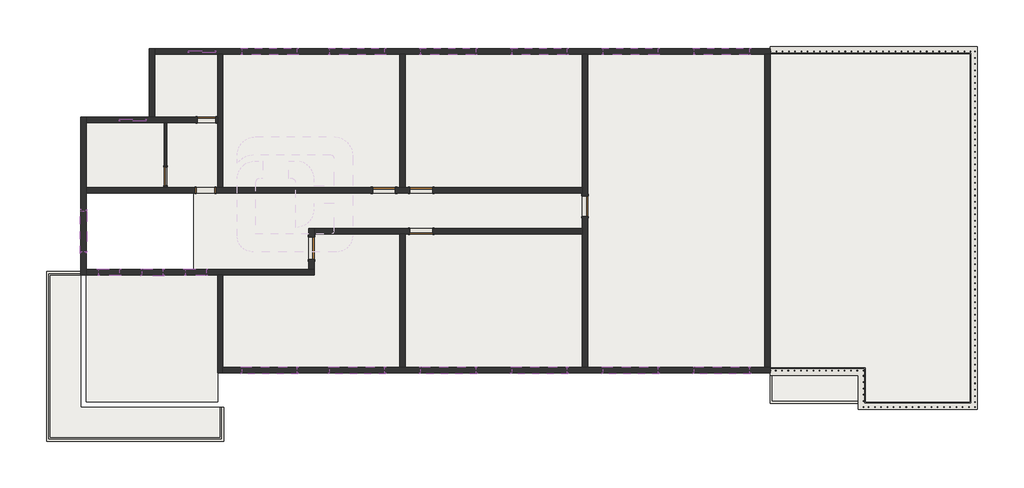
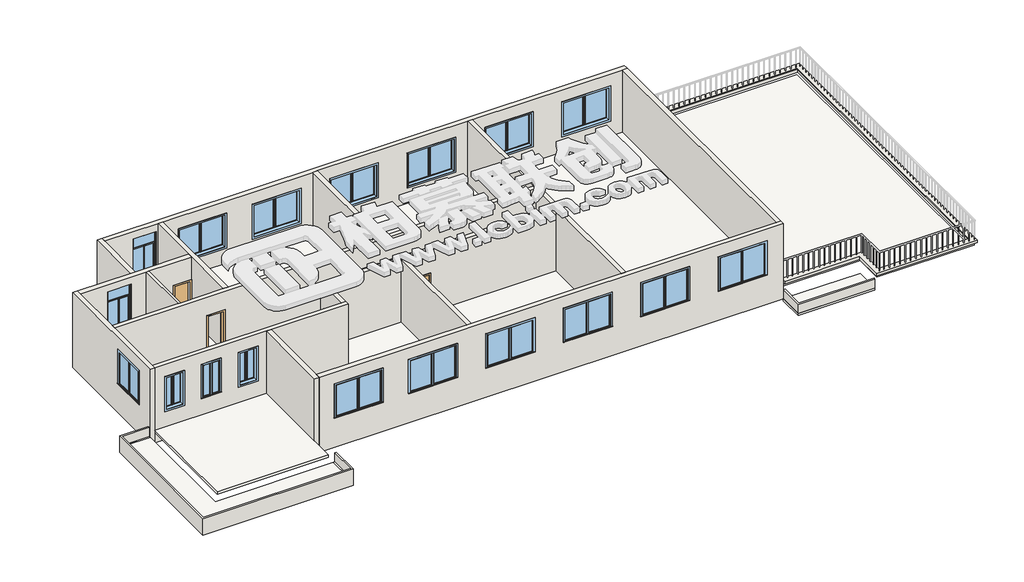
# One storey, part 1 of 2: 19 walls, 18 windows, 8 doors, 5 slabs.
"""IFC4 building model written with IfcOpenShell, lengths in millimetres."""

from ifc_helpers import new_model, si_unit, frame, origin, place, context, project, spatial, polyline, outline, extrude, faceted_brep, transform, mapped, element, save
from components import m_6_198a37c4, m_7_1c2f6ab2, m_7_583f3ef9, m_8_e44f04d8, m_8_28e287ba, md0924_8bf075f8, wall_187dfb07, wall_e267aab7, wall_ebd0b002, c_2_2cdffc81, c_2_be8dc616, c_3_661ab909, c_4_3f02acb8, c_5_474962f9

model = new_model("IFC4")

# Units and contexts
model_context = context("Model", 3, world=origin())
ifc_project = project(units=[si_unit("LENGTHUNIT", "METRE", prefix="MILLI")], contexts=[model_context])

# Site, building, storey
site = spatial("IfcSite", under=ifc_project)
building = spatial("IfcBuilding", under=site)
storey = spatial("IfcBuildingStorey", under=building, Name="标高 2", Elevation=3300.0)

# Doors
placement = place(None, origin())
m_6_shape = m_6_198a37c4(model_context)
element("IfcDoor", 1, ObjectType="单扇 - 与墙齐 : M-6", at=placement, inside=storey, context=model_context, shape_type="MappedRepresentation", body=[
    mapped(m_6_shape, transform((18445.1052473, -1418.768361, 4000.0), x_axis=(0.0, 1.0, 0.0), y_axis=(-1.0, 0.0, 0.0), z_axis=(0.0, 0.0, 1.0))),
])
m_7_shape = m_7_1c2f6ab2(model_context)
element("IfcDoor", 2, ObjectType="单扇 - 与墙齐 : M-7", at=placement, inside=storey, context=model_context, shape_type="MappedRepresentation", body=[
    mapped(m_7_shape, transform((45.1052473, -108.768361, 4000.0), x_axis=(0.0, -1.0, 0.0), y_axis=(1.0, 0.0, 0.0), z_axis=(0.0, 0.0, 1.0))),
])
m_7_2_shape = m_7_583f3ef9(model_context)
element("IfcDoor", 3, ObjectType="单扇 - 与墙齐 : M-7", at=placement, inside=storey, context=model_context, shape_type="MappedRepresentation", body=[
    mapped(m_7_2_shape, transform((1845.1052473, 2371.231639, 4000.0), x_axis=(1.0, 0.0, 0.0), y_axis=(0.0, 1.0, 0.0), z_axis=(0.0, 0.0, 1.0))),
])
m_8_shape = m_8_e44f04d8(model_context)
element("IfcDoor", 4, ObjectType="单扇 - 与墙齐 : M-8", at=placement, inside=storey, context=model_context, shape_type="MappedRepresentation", body=[
    mapped(m_8_shape, transform((6445.1052473, -3268.768361, 4000.0), x_axis=(0.0, 1.0, 0.0), y_axis=(-1.0, 0.0, 0.0), z_axis=(0.0, 0.0, 1.0))),
])
element("IfcDoor", 5, ObjectType="单扇 - 与墙齐 : M-8", at=placement, inside=storey, context=model_context, shape_type="MappedRepresentation", body=[
    mapped(m_8_shape, transform((11265.1052473, -728.768361, 4000.0), x_axis=(-1.0, 0.0, 0.0), y_axis=(0.0, -1.0, 0.0), z_axis=(0.0, 0.0, 1.0))),
])
m_8_2_shape = m_8_28e287ba(model_context)
element("IfcDoor", 6, ObjectType="单扇 - 与墙齐 : M-8", at=placement, inside=storey, context=model_context, shape_type="MappedRepresentation", body=[
    mapped(m_8_2_shape, transform((9625.1052473, -728.768361, 4000.0), x_axis=(1.0, 0.0, 0.0), y_axis=(0.0, 1.0, 0.0), z_axis=(0.0, 0.0, 1.0))),
])
element("IfcDoor", 7, ObjectType="单扇 - 与墙齐 : M-8", at=placement, inside=storey, context=model_context, shape_type="MappedRepresentation", body=[
    mapped(m_8_2_shape, transform((11265.1052473, -2528.768361, 4000.0), x_axis=(-1.0, 0.0, 0.0), y_axis=(0.0, -1.0, 0.0), z_axis=(0.0, 0.0, 1.0))),
])
md0924_shape = md0924_8bf075f8(model_context)
element("IfcDoor", 8, ObjectType="门洞 : MD0924", at=placement, inside=storey, context=model_context, shape_type="MappedRepresentation", body=[
    mapped(md0924_shape, transform((1795.1052473, -728.768361, 4000.0), x_axis=(1.0, 0.0, 0.0), y_axis=(0.0, 1.0, 0.0), z_axis=(0.0, 0.0, 1.0))),
])

# Slabs
element("IfcSlab", 9, ObjectType="楼板-120mm", at=placement, inside=storey, context=model_context, shape_type="SweptSolid", body=[
    extrude(outline(polyline([(2565.1052473, -8508.768361), (2565.1052473, -4208.768361), (1285.1052473, -4208.768361), (1285.1052473, -849.168361), (-3434.8947527, -849.168361), (-3434.8947527, 2251.231639), (-434.8947527, 2251.231639), (-434.8947527, 5251.231639), (26325.1052473, 5251.231639), (26325.1052473, -8508.768361), (2565.1052473, -8508.768361)])), frame((0.0, 0.0, 3880.0), z_axis=(0.0, 0.0, 1.0), x_axis=(1.0, 0.0, 0.0)), (0.0, 0.0, 1.0), 120.0),
])
element("IfcSlab", 10, ObjectType="楼板-120mm", at=placement, inside=storey, context=model_context, shape_type="SweptSolid", body=[
    extrude(outline(polyline([(2325.1052473, -4448.768361), (2325.1052473, -10008.768361), (-3434.8947527, -10008.768361), (-3434.8947527, -4448.768361), (2325.1052473, -4448.768361)])), frame((0.0, 0.0, 3880.0), z_axis=(0.0, 0.0, 1.0), x_axis=(1.0, 0.0, 0.0)), (0.0, 0.0, 1.0), 120.0),
])
element("IfcSlab", 11, ObjectType="楼板-120mm", at=placement, inside=storey, context=model_context, shape_type="SweptSolid", body=[
    extrude(outline(polyline([(35325.1052473, 5251.231639), (35325.1052473, -10008.768361), (30765.1052473, -10008.768361), (30765.1052473, -8508.768361), (26565.1052473, -8508.768361), (26565.1052473, 5251.231639), (35325.1052473, 5251.231639)])), frame((0.0, 0.0, 3880.0), z_axis=(0.0, 0.0, 1.0), x_axis=(1.0, 0.0, 0.0)), (0.0, 0.0, 1.0), 120.0),
])
element("IfcSlab", 12, ObjectType="楼板-120mm", at=placement, inside=storey, context=model_context, shape_type="SweptSolid", body=[
    extrude(outline(polyline([(30525.1052473, -8748.768361), (30525.1052473, -10078.768361), (26565.1052473, -10078.768361), (26565.1052473, -8748.768361), (30525.1052473, -8748.768361)])), frame((0.0, 0.0, 3180.0), z_axis=(0.0, 0.0, 1.0), x_axis=(1.0, 0.0, 0.0)), (0.0, 0.0, 1.0), 120.0),
])
element("IfcSlab", 13, ObjectType="100", at=placement, inside=storey, context=model_context, shape_type="SweptSolid", body=[
    extrude(outline(polyline([(-3674.8947527, -10248.768361), (2445.1052473, -10248.768361), (2445.1052473, -11598.768361), (-5024.8947527, -11598.768361), (-5024.8947527, -4448.768361), (-3674.8947527, -4448.768361), (-3674.8947527, -10248.768361)])), frame((0.0, 0.0, 3600.0), z_axis=(0.0, 0.0, 1.0), x_axis=(1.0, 0.0, 0.0)), (0.0, 0.0, 1.0), 100.0),
])

# Walls
element("IfcWall", 14, ObjectType="240mm墙", at=placement, inside=storey, context=model_context, shape_type="Brep", body=[
    faceted_brep([(-3434.8947527, 2251.231639, 3300.0), (-14.8947527, 2251.231639, 3300.0), (105.1052473, 2251.231639, 3300.0), (2325.1052473, 2251.231639, 3300.0), (2325.1052473, 2251.231639, 7400.0), (105.1052473, 2251.231639, 7400.0), (-14.8947527, 2251.231639, 7400.0), (-3434.8947527, 2251.231639, 7400.0), (1445.1052473, 2251.231639, 4000.0), (1445.1052473, 2251.231639, 6100.0), (2245.1052473, 2251.231639, 6100.0), (2245.1052473, 2251.231639, 4000.0), (-794.8947527, 2251.231639, 4900.0), (-1994.8947527, 2251.231639, 4900.0), (-1994.8947527, 2251.231639, 7000.0), (-794.8947527, 2251.231639, 7000.0), (-3434.8947527, 2491.231639, 3300.0), (-3434.8947527, 2491.231639, 7400.0), (-674.8947527, 2491.231639, 7400.0), (-434.8947527, 2491.231639, 7400.0), (2325.1052473, 2491.231639, 7400.0), (2325.1052473, 2491.231639, 3300.0), (-434.8947527, 2491.231639, 3300.0), (-674.8947527, 2491.231639, 3300.0), (1445.1052473, 2491.231639, 4000.0), (2245.1052473, 2491.231639, 4000.0), (2245.1052473, 2491.231639, 6100.0), (1445.1052473, 2491.231639, 6100.0), (-794.8947527, 2491.231639, 4900.0), (-794.8947527, 2491.231639, 7000.0), (-1994.8947527, 2491.231639, 7000.0), (-1994.8947527, 2491.231639, 4900.0)], [[[0, 1, 2, 3, 4, 5, 6, 7], [8, 9, 10, 11], [12, 13, 14, 15]], [[16, 17, 18, 19, 20, 21, 22, 23], [24, 25, 26, 27], [28, 29, 30, 31]], [[3, 2, 1, 0, 16, 23, 22, 21]], [[7, 6, 5, 4, 20, 19, 18, 17]], [[0, 7, 17, 16]], [[4, 3, 21, 20]], [[25, 24, 8, 11]], [[26, 25, 11, 10]], [[27, 26, 10, 9]], [[24, 27, 9, 8]], [[29, 28, 12, 15]], [[30, 29, 15, 14]], [[31, 30, 14, 13]], [[28, 31, 13, 12]]]),
])
element("IfcWall", 15, ObjectType="240mm墙", at=placement, inside=storey, context=model_context, shape_type="Brep", body=[
    faceted_brep([(-434.8947527, 2491.231639, 3300.0), (-434.8947527, 5251.231639, 3300.0), (-434.8947527, 5491.231639, 3300.0), (-434.8947527, 5491.231639, 7400.0), (-434.8947527, 5251.231639, 7400.0), (-434.8947527, 2491.231639, 7400.0), (-674.8947527, 2491.231639, 3300.0), (-674.8947527, 2491.231639, 7400.0), (-674.8947527, 5491.231639, 7400.0), (-674.8947527, 5491.231639, 3300.0)], [[[0, 1, 2, 3, 4, 5]], [[6, 7, 8, 9]], [[2, 1, 0, 6, 9]], [[5, 4, 3, 8, 7]], [[0, 5, 7, 6]], [[3, 2, 9, 8]]]),
])
element("IfcWall", 16, ObjectType="240mm墙", at=placement, inside=storey, context=model_context, shape_type="Brep", body=[
    faceted_brep([(-434.8947527, 5251.231639, 3300.0), (2325.1052473, 5251.231639, 3300.0), (2565.1052473, 5251.231639, 3300.0), (10325.1052473, 5251.231639, 3300.0), (10565.1052473, 5251.231639, 3300.0), (18325.1052473, 5251.231639, 3300.0), (18565.1052473, 5251.231639, 3300.0), (26325.1052473, 5251.231639, 3300.0), (26565.1052473, 5251.231639, 3300.0), (26565.1052473, 5251.231639, 4000.0), (26565.1052473, 5251.231639, 7400.0), (26325.1052473, 5251.231639, 7400.0), (18565.1052473, 5251.231639, 7400.0), (18325.1052473, 5251.231639, 7400.0), (10565.1052473, 5251.231639, 7400.0), (10325.1052473, 5251.231639, 7400.0), (2565.1052473, 5251.231639, 7400.0), (2325.1052473, 5251.231639, 7400.0), (-434.8947527, 5251.231639, 7400.0), (23245.1052473, 5251.231639, 6700.0), (25645.1052473, 5251.231639, 6700.0), (25645.1052473, 5251.231639, 4900.0), (23245.1052473, 5251.231639, 4900.0), (19245.1052473, 5251.231639, 6700.0), (21645.1052473, 5251.231639, 6700.0), (21645.1052473, 5251.231639, 4900.0), (19245.1052473, 5251.231639, 4900.0), (15245.1052473, 5251.231639, 6700.0), (17645.1052473, 5251.231639, 6700.0), (17645.1052473, 5251.231639, 4900.0), (15245.1052473, 5251.231639, 4900.0), (11245.1052473, 5251.231639, 6700.0), (13645.1052473, 5251.231639, 6700.0), (13645.1052473, 5251.231639, 4900.0), (11245.1052473, 5251.231639, 4900.0), (7245.1052473, 5251.231639, 6700.0), (9645.1052473, 5251.231639, 6700.0), (9645.1052473, 5251.231639, 4900.0), (7245.1052473, 5251.231639, 4900.0), (3405.1052473, 5251.231639, 6700.0), (5805.1052473, 5251.231639, 6700.0), (5805.1052473, 5251.231639, 4900.0), (3405.1052473, 5251.231639, 4900.0), (2245.1052473, 5251.231639, 4900.0), (1045.1052473, 5251.231639, 4900.0), (1045.1052473, 5251.231639, 7000.0), (2245.1052473, 5251.231639, 7000.0), (-434.8947527, 5491.231639, 3300.0), (-434.8947527, 5491.231639, 7400.0), (26565.1052473, 5491.231639, 7400.0), (26565.1052473, 5491.231639, 4000.0), (26565.1052473, 5491.231639, 3300.0), (23245.1052473, 5491.231639, 6700.0), (23245.1052473, 5491.231639, 4900.0), (25645.1052473, 5491.231639, 4900.0), (25645.1052473, 5491.231639, 6700.0), (19245.1052473, 5491.231639, 6700.0), (19245.1052473, 5491.231639, 4900.0), (21645.1052473, 5491.231639, 4900.0), (21645.1052473, 5491.231639, 6700.0), (15245.1052473, 5491.231639, 6700.0), (15245.1052473, 5491.231639, 4900.0), (17645.1052473, 5491.231639, 4900.0), (17645.1052473, 5491.231639, 6700.0), (11245.1052473, 5491.231639, 6700.0), (11245.1052473, 5491.231639, 4900.0), (13645.1052473, 5491.231639, 4900.0), (13645.1052473, 5491.231639, 6700.0), (7245.1052473, 5491.231639, 6700.0), (7245.1052473, 5491.231639, 4900.0), (9645.1052473, 5491.231639, 4900.0), (9645.1052473, 5491.231639, 6700.0), (3405.1052473, 5491.231639, 6700.0), (3405.1052473, 5491.231639, 4900.0), (5805.1052473, 5491.231639, 4900.0), (5805.1052473, 5491.231639, 6700.0), (2245.1052473, 5491.231639, 4900.0), (2245.1052473, 5491.231639, 7000.0), (1045.1052473, 5491.231639, 7000.0), (1045.1052473, 5491.231639, 4900.0)], [[[0, 1, 2, 3, 4, 5, 6, 7, 8, 9, 10, 11, 12, 13, 14, 15, 16, 17, 18], [19, 20, 21, 22], [23, 24, 25, 26], [27, 28, 29, 30], [31, 32, 33, 34], [35, 36, 37, 38], [39, 40, 41, 42], [43, 44, 45, 46]], [[47, 48, 49, 50, 51], [52, 53, 54, 55], [56, 57, 58, 59], [60, 61, 62, 63], [64, 65, 66, 67], [68, 69, 70, 71], [72, 73, 74, 75], [76, 77, 78, 79]], [[8, 7, 6, 5, 4, 3, 2, 1, 0, 47, 51]], [[18, 17, 16, 15, 14, 13, 12, 11, 10, 49, 48]], [[0, 18, 48, 47]], [[53, 52, 19, 22]], [[54, 53, 22, 21]], [[55, 54, 21, 20]], [[52, 55, 20, 19]], [[57, 56, 23, 26]], [[58, 57, 26, 25]], [[59, 58, 25, 24]], [[56, 59, 24, 23]], [[61, 60, 27, 30]], [[62, 61, 30, 29]], [[63, 62, 29, 28]], [[60, 63, 28, 27]], [[65, 64, 31, 34]], [[66, 65, 34, 33]], [[67, 66, 33, 32]], [[64, 67, 32, 31]], [[69, 68, 35, 38]], [[70, 69, 38, 37]], [[71, 70, 37, 36]], [[68, 71, 36, 35]], [[73, 72, 39, 42]], [[74, 73, 42, 41]], [[75, 74, 41, 40]], [[72, 75, 40, 39]], [[77, 76, 43, 46]], [[78, 77, 46, 45]], [[79, 78, 45, 44]], [[76, 79, 44, 43]], [[8, 51, 50, 49, 10, 9]]]),
])
element("IfcWall", 17, ObjectType="240mm墙", at=placement, inside=storey, context=model_context, shape_type="Brep", body=[
    faceted_brep([(2325.1052473, 5251.231639, 3300.0), (2325.1052473, 2491.231639, 3300.0), (2325.1052473, 2251.231639, 3300.0), (2325.1052473, -608.768361, 3300.0), (2325.1052473, -608.768361, 7400.0), (2325.1052473, 2251.231639, 7400.0), (2325.1052473, 2491.231639, 7400.0), (2325.1052473, 5251.231639, 7400.0), (2565.1052473, 5251.231639, 3300.0), (2565.1052473, 5251.231639, 7400.0), (2565.1052473, -608.768361, 7400.0), (2565.1052473, -608.768361, 3300.0)], [[[0, 1, 2, 3, 4, 5, 6, 7]], [[8, 9, 10, 11]], [[3, 2, 1, 0, 8, 11]], [[7, 6, 5, 4, 10, 9]], [[0, 7, 9, 8]], [[4, 3, 11, 10]]]),
])
element("IfcWall", 18, ObjectType="240mm墙", at=placement, inside=storey, context=model_context, shape_type="Brep", body=[
    faceted_brep([(6565.1052473, -4448.768361, 7400.0), (2565.1052473, -4448.768361, 7400.0), (2325.1052473, -4448.768361, 7400.0), (-3434.8947527, -4448.768361, 7400.0), (-3434.8947527, -4448.768361, 3300.0), (2325.1052473, -4448.768361, 3300.0), (2325.1052473, -4448.768361, 3880.0), (2565.1052473, -4448.768361, 3880.0), (2565.1052473, -4448.768361, 3300.0), (6565.1052473, -4448.768361, 3300.0), (-1974.8947527, -4448.768361, 6700.0), (-1974.8947527, -4448.768361, 4900.0), (-2874.8947527, -4448.768361, 4900.0), (-2874.8947527, -4448.768361, 6700.0), (-974.8947527, -4448.768361, 4900.0), (-974.8947527, -4448.768361, 6700.0), (-74.8947527, -4448.768361, 6700.0), (-74.8947527, -4448.768361, 4900.0), (1825.1052473, -4448.768361, 6700.0), (1825.1052473, -4448.768361, 4900.0), (925.1052473, -4448.768361, 4900.0), (925.1052473, -4448.768361, 6700.0), (-3434.8947527, -4208.768361, 7400.0), (6325.1052473, -4208.768361, 7400.0), (6565.1052473, -4208.768361, 7400.0), (6565.1052473, -4208.768361, 3300.0), (6325.1052473, -4208.768361, 3300.0), (2565.1052473, -4208.768361, 3300.0), (2565.1052473, -4208.768361, 3880.0), (2325.1052473, -4208.768361, 3880.0), (2325.1052473, -4208.768361, 3300.0), (-3434.8947527, -4208.768361, 3300.0), (-1974.8947527, -4208.768361, 4900.0), (-1974.8947527, -4208.768361, 6700.0), (-2874.8947527, -4208.768361, 6700.0), (-2874.8947527, -4208.768361, 4900.0), (-974.8947527, -4208.768361, 6700.0), (-974.8947527, -4208.768361, 4900.0), (-74.8947527, -4208.768361, 4900.0), (-74.8947527, -4208.768361, 6700.0), (1825.1052473, -4208.768361, 4900.0), (1825.1052473, -4208.768361, 6700.0), (925.1052473, -4208.768361, 6700.0), (925.1052473, -4208.768361, 4900.0)], [[[0, 1, 2, 3, 4, 5, 6, 7, 8, 9], [10, 11, 12, 13], [14, 15, 16, 17], [18, 19, 20, 21]], [[22, 23, 24, 25, 26, 27, 28, 29, 30, 31], [32, 33, 34, 35], [36, 37, 38, 39], [40, 41, 42, 43]], [[4, 31, 30, 5]], [[25, 9, 8, 27, 26]], [[3, 2, 1, 0, 24, 23, 22]], [[0, 9, 25, 24]], [[11, 10, 33, 32]], [[12, 11, 32, 35]], [[13, 12, 35, 34]], [[10, 13, 34, 33]], [[37, 36, 15, 14]], [[38, 37, 14, 17]], [[39, 38, 17, 16]], [[36, 39, 16, 15]], [[19, 18, 41, 40]], [[20, 19, 40, 43]], [[21, 20, 43, 42]], [[18, 21, 42, 41]], [[3, 22, 31, 4]], [[29, 6, 5, 30]], [[7, 28, 27, 8]], [[6, 29, 28, 7]]]),
])
element("IfcWall", 19, ObjectType="120mm墙", at=placement, inside=storey, context=model_context, shape_type="SweptSolid", body=[
    extrude(outline(polyline([(2251.231639, 3300.0), (-608.768361, 3300.0), (-608.768361, 7400.0), (2251.231639, 7400.0), (2251.231639, 3300.0)]), holes=[polyline([(291.231639, 4000.0), (291.231639, 6100.0), (-508.768361, 6100.0), (-508.768361, 4000.0), (291.231639, 4000.0)])]), frame((-14.8947527, 0.0, 0.0), z_axis=(1.0, 0.0, 0.0), x_axis=(0.0, 1.0, 0.0)), (0.0, 0.0, 1.0), 120.0),
])
element("IfcWall", 20, ObjectType="240mm墙", at=placement, inside=storey, context=model_context, shape_type="Brep", body=[
    faceted_brep([(26325.1052473, 5251.231639, 7400.0), (26325.1052473, 5251.231639, 3300.0), (26325.1052473, -5748.768361, 3300.0), (26325.1052473, -8508.768361, 3300.0), (26325.1052473, -8508.768361, 7400.0), (26565.1052473, 5251.231639, 3300.0), (26565.1052473, 5251.231639, 7400.0), (26565.1052473, -8508.768361, 7400.0), (26565.1052473, -8508.768361, 3300.0), (26565.1052473, -5748.768361, 3300.0)], [[[0, 1, 2, 3, 4]], [[5, 6, 7, 8, 9]], [[3, 2, 1, 5, 9, 8]], [[0, 4, 7, 6]], [[0, 6, 5, 1]], [[3, 8, 7, 4]]]),
])
element("IfcWall", 21, ObjectType="240mm墙", at=placement, inside=storey, context=model_context, shape_type="Brep", body=[
    faceted_brep([(-3434.8947527, -4448.768361, 7400.0), (-3434.8947527, -4448.768361, 4000.0), (-3434.8947527, -4448.768361, 3300.0), (-3434.8947527, -4328.768361, 3300.0), (-3434.8947527, -4208.768361, 3300.0), (-3434.8947527, -848.768361, 3300.0), (-3434.8947527, -608.768361, 3300.0), (-3434.8947527, 2251.231639, 3300.0), (-3434.8947527, 2491.231639, 3300.0), (-3434.8947527, 2491.231639, 7400.0), (-3434.8947527, 2251.231639, 7400.0), (-3434.8947527, -608.768361, 7400.0), (-3434.8947527, -848.768361, 7400.0), (-3434.8947527, -4208.768361, 7400.0), (-3434.8947527, -1628.768361, 6700.0), (-3434.8947527, -1628.768361, 4900.0), (-3434.8947527, -3428.768361, 4900.0), (-3434.8947527, -3428.768361, 6700.0), (-3674.8947527, -4448.768361, 3300.0), (-3674.8947527, -4448.768361, 4000.0), (-3674.8947527, -4448.768361, 7400.0), (-3674.8947527, 2491.231639, 7400.0), (-3674.8947527, 2491.231639, 3300.0), (-3674.8947527, -4328.768361, 3300.0), (-3674.8947527, -1628.768361, 6700.0), (-3674.8947527, -3428.768361, 6700.0), (-3674.8947527, -3428.768361, 4900.0), (-3674.8947527, -1628.768361, 4900.0)], [[[0, 1, 2, 3, 4, 5, 6, 7, 8, 9, 10, 11, 12, 13], [14, 15, 16, 17]], [[18, 19, 20, 21, 22, 23], [24, 25, 26, 27]], [[8, 7, 6, 5, 4, 3, 2, 18, 23, 22]], [[0, 13, 12, 11, 10, 9, 21, 20]], [[9, 8, 22, 21]], [[15, 14, 24, 27]], [[16, 15, 27, 26]], [[17, 16, 26, 25]], [[14, 17, 25, 24]], [[0, 20, 19, 18, 2, 1]]]),
])
element("IfcWall", 22, ObjectType="240mm墙", at=placement, inside=storey, context=model_context, shape_type="Brep", body=[
    faceted_brep([(26565.1052473, -8508.768361, 7400.0), (26565.1052473, -8508.768361, 4000.0), (26565.1052473, -8508.768361, 3300.0), (26445.1052473, -8508.768361, 3300.0), (26325.1052473, -8508.768361, 3300.0), (18565.1052473, -8508.768361, 3300.0), (18325.1052473, -8508.768361, 3300.0), (10565.1052473, -8508.768361, 3300.0), (10325.1052473, -8508.768361, 3300.0), (2565.1052473, -8508.768361, 3300.0), (2565.1052473, -8508.768361, 7400.0), (10325.1052473, -8508.768361, 7400.0), (10565.1052473, -8508.768361, 7400.0), (18325.1052473, -8508.768361, 7400.0), (18565.1052473, -8508.768361, 7400.0), (26325.1052473, -8508.768361, 7400.0), (3405.1052473, -8508.768361, 6700.0), (3405.1052473, -8508.768361, 4900.0), (5805.1052473, -8508.768361, 4900.0), (5805.1052473, -8508.768361, 6700.0), (7245.1052473, -8508.768361, 6700.0), (7245.1052473, -8508.768361, 4900.0), (9645.1052473, -8508.768361, 4900.0), (9645.1052473, -8508.768361, 6700.0), (11245.1052473, -8508.768361, 6700.0), (11245.1052473, -8508.768361, 4900.0), (13645.1052473, -8508.768361, 4900.0), (13645.1052473, -8508.768361, 6700.0), (15245.1052473, -8508.768361, 6700.0), (15245.1052473, -8508.768361, 4900.0), (17645.1052473, -8508.768361, 4900.0), (17645.1052473, -8508.768361, 6700.0), (19245.1052473, -8508.768361, 6700.0), (19245.1052473, -8508.768361, 4900.0), (21645.1052473, -8508.768361, 4900.0), (21645.1052473, -8508.768361, 6700.0), (23245.1052473, -8508.768361, 6700.0), (23245.1052473, -8508.768361, 4900.0), (25645.1052473, -8508.768361, 4900.0), (25645.1052473, -8508.768361, 6700.0), (26565.1052473, -8748.768361, 3300.0), (26565.1052473, -8748.768361, 4000.0), (26565.1052473, -8748.768361, 7400.0), (2565.1052473, -8748.768361, 7400.0), (2565.1052473, -8748.768361, 3300.0), (26445.1052473, -8748.768361, 3300.0), (3405.1052473, -8748.768361, 6700.0), (5805.1052473, -8748.768361, 6700.0), (5805.1052473, -8748.768361, 4900.0), (3405.1052473, -8748.768361, 4900.0), (7245.1052473, -8748.768361, 6700.0), (9645.1052473, -8748.768361, 6700.0), (9645.1052473, -8748.768361, 4900.0), (7245.1052473, -8748.768361, 4900.0), (11245.1052473, -8748.768361, 6700.0), (13645.1052473, -8748.768361, 6700.0), (13645.1052473, -8748.768361, 4900.0), (11245.1052473, -8748.768361, 4900.0), (15245.1052473, -8748.768361, 6700.0), (17645.1052473, -8748.768361, 6700.0), (17645.1052473, -8748.768361, 4900.0), (15245.1052473, -8748.768361, 4900.0), (19245.1052473, -8748.768361, 6700.0), (21645.1052473, -8748.768361, 6700.0), (21645.1052473, -8748.768361, 4900.0), (19245.1052473, -8748.768361, 4900.0), (23245.1052473, -8748.768361, 6700.0), (25645.1052473, -8748.768361, 6700.0), (25645.1052473, -8748.768361, 4900.0), (23245.1052473, -8748.768361, 4900.0)], [[[0, 1, 2, 3, 4, 5, 6, 7, 8, 9, 10, 11, 12, 13, 14, 15], [16, 17, 18, 19], [20, 21, 22, 23], [24, 25, 26, 27], [28, 29, 30, 31], [32, 33, 34, 35], [36, 37, 38, 39]], [[40, 41, 42, 43, 44, 45], [46, 47, 48, 49], [50, 51, 52, 53], [54, 55, 56, 57], [58, 59, 60, 61], [62, 63, 64, 65], [66, 67, 68, 69]], [[9, 8, 7, 6, 5, 4, 3, 2, 40, 45, 44]], [[0, 15, 14, 13, 12, 11, 10, 43, 42]], [[17, 16, 46, 49]], [[18, 17, 49, 48]], [[19, 18, 48, 47]], [[16, 19, 47, 46]], [[21, 20, 50, 53]], [[22, 21, 53, 52]], [[23, 22, 52, 51]], [[20, 23, 51, 50]], [[25, 24, 54, 57]], [[26, 25, 57, 56]], [[27, 26, 56, 55]], [[24, 27, 55, 54]], [[29, 28, 58, 61]], [[30, 29, 61, 60]], [[31, 30, 60, 59]], [[28, 31, 59, 58]], [[33, 32, 62, 65]], [[34, 33, 65, 64]], [[35, 34, 64, 63]], [[32, 35, 63, 62]], [[37, 36, 66, 69]], [[38, 37, 69, 68]], [[39, 38, 68, 67]], [[36, 39, 67, 66]], [[0, 42, 41, 40, 2, 1]], [[9, 44, 43, 10]]]),
])
element("IfcWall", 23, ObjectType="240mm墙", at=placement, inside=storey, context=model_context, shape_type="Brep", body=[
    faceted_brep([(2325.1052473, -4448.768361, 3300.0), (2325.1052473, -8508.768361, 3300.0), (2325.1052473, -8628.768361, 3300.0), (2325.1052473, -8748.768361, 3300.0), (2325.1052473, -8748.768361, 4000.0), (2325.1052473, -8748.768361, 7400.0), (2325.1052473, -4448.768361, 7400.0), (2565.1052473, -4448.768361, 3300.0), (2565.1052473, -4448.768361, 7400.0), (2565.1052473, -8508.768361, 7400.0), (2565.1052473, -8748.768361, 7400.0), (2565.1052473, -8748.768361, 4000.0), (2565.1052473, -8748.768361, 3300.0), (2565.1052473, -8628.768361, 3300.0), (2565.1052473, -8508.768361, 3300.0)], [[[0, 1, 2, 3, 4, 5, 6]], [[7, 8, 9, 10, 11, 12, 13, 14]], [[3, 2, 1, 0, 7, 14, 13, 12]], [[6, 5, 10, 9, 8]], [[0, 6, 8, 7]], [[3, 12, 11, 10, 5, 4]]]),
])
element("IfcWall", 24, ObjectType="240mm墙", at=placement, inside=storey, context=model_context, shape_type="Brep", body=[
    faceted_brep([(6565.1052473, -4208.768361, 3300.0), (6565.1052473, -2648.768361, 3300.0), (6565.1052473, -2408.768361, 3300.0), (6565.1052473, -2408.768361, 7400.0), (6565.1052473, -2648.768361, 7400.0), (6565.1052473, -4208.768361, 7400.0), (6565.1052473, -3768.768361, 4000.0), (6565.1052473, -3768.768361, 6100.0), (6565.1052473, -2768.768361, 6100.0), (6565.1052473, -2768.768361, 4000.0), (6325.1052473, -4208.768361, 3300.0), (6325.1052473, -4208.768361, 7400.0), (6325.1052473, -2408.768361, 7400.0), (6325.1052473, -2408.768361, 3300.0), (6325.1052473, -3768.768361, 4000.0), (6325.1052473, -2768.768361, 4000.0), (6325.1052473, -2768.768361, 6100.0), (6325.1052473, -3768.768361, 6100.0)], [[[0, 1, 2, 3, 4, 5], [6, 7, 8, 9]], [[10, 11, 12, 13], [14, 15, 16, 17]], [[2, 1, 0, 10, 13]], [[5, 4, 3, 12, 11]], [[0, 5, 11, 10]], [[3, 2, 13, 12]], [[15, 14, 6, 9]], [[16, 15, 9, 8]], [[17, 16, 8, 7]], [[14, 17, 7, 6]]]),
])
element("IfcWall", 25, ObjectType="240mm墙", at=placement, inside=storey, context=model_context, shape_type="Brep", body=[
    faceted_brep([(6565.1052473, -2648.768361, 3300.0), (10325.1052473, -2648.768361, 3300.0), (10565.1052473, -2648.768361, 3300.0), (18325.1052473, -2648.768361, 3300.0), (18325.1052473, -2648.768361, 7400.0), (10565.1052473, -2648.768361, 7400.0), (10325.1052473, -2648.768361, 7400.0), (6565.1052473, -2648.768361, 7400.0), (11765.1052473, -2648.768361, 4000.0), (10765.1052473, -2648.768361, 4000.0), (10765.1052473, -2648.768361, 6100.0), (11765.1052473, -2648.768361, 6100.0), (6565.1052473, -2408.768361, 3300.0), (6565.1052473, -2408.768361, 7400.0), (18325.1052473, -2408.768361, 7400.0), (18325.1052473, -2408.768361, 3300.0), (11765.1052473, -2408.768361, 4000.0), (11765.1052473, -2408.768361, 6100.0), (10765.1052473, -2408.768361, 6100.0), (10765.1052473, -2408.768361, 4000.0)], [[[0, 1, 2, 3, 4, 5, 6, 7], [8, 9, 10, 11]], [[12, 13, 14, 15], [16, 17, 18, 19]], [[3, 2, 1, 0, 12, 15]], [[7, 6, 5, 4, 14, 13]], [[0, 7, 13, 12]], [[4, 3, 15, 14]], [[9, 8, 16, 19]], [[10, 9, 19, 18]], [[11, 10, 18, 17]], [[8, 11, 17, 16]]]),
])
element("IfcWall", 26, ObjectType="240mm墙", at=placement, inside=storey, context=model_context, shape_type="Brep", body=[
    faceted_brep([(18325.1052473, 5251.231639, 3300.0), (18325.1052473, -608.768361, 3300.0), (18325.1052473, -848.768361, 3300.0), (18325.1052473, -2408.768361, 3300.0), (18325.1052473, -2648.768361, 3300.0), (18325.1052473, -8508.768361, 3300.0), (18325.1052473, -8508.768361, 7400.0), (18325.1052473, -2648.768361, 7400.0), (18325.1052473, -2408.768361, 7400.0), (18325.1052473, -848.768361, 7400.0), (18325.1052473, -608.768361, 7400.0), (18325.1052473, 5251.231639, 7400.0), (18325.1052473, -1868.768361, 4000.0), (18325.1052473, -968.768361, 4000.0), (18325.1052473, -968.768361, 6100.0), (18325.1052473, -1868.768361, 6100.0), (18565.1052473, 5251.231639, 3300.0), (18565.1052473, 5251.231639, 7400.0), (18565.1052473, -8508.768361, 7400.0), (18565.1052473, -8508.768361, 3300.0), (18565.1052473, -1868.768361, 4000.0), (18565.1052473, -1868.768361, 6100.0), (18565.1052473, -968.768361, 6100.0), (18565.1052473, -968.768361, 4000.0)], [[[0, 1, 2, 3, 4, 5, 6, 7, 8, 9, 10, 11], [12, 13, 14, 15]], [[16, 17, 18, 19], [20, 21, 22, 23]], [[5, 4, 3, 2, 1, 0, 16, 19]], [[11, 10, 9, 8, 7, 6, 18, 17]], [[0, 11, 17, 16]], [[6, 5, 19, 18]], [[13, 12, 20, 23]], [[14, 13, 23, 22]], [[15, 14, 22, 21]], [[12, 15, 21, 20]]]),
])
element("IfcWall", 27, ObjectType="240mm墙", at=placement, inside=storey, context=model_context, shape_type="SweptSolid", body=[
    extrude(outline(polyline([(10325.1052473, -608.768361), (10325.1052473, 5251.231639), (10565.1052473, 5251.231639), (10565.1052473, -608.768361), (10325.1052473, -608.768361)])), frame((0.0, 0.0, 3300.0), z_axis=(0.0, 0.0, 1.0), x_axis=(1.0, 0.0, 0.0)), (0.0, 0.0, 1.0), 4100.0),
])
element("IfcWall", 28, ObjectType="240mm墙", at=placement, inside=storey, context=model_context, shape_type="Brep", body=[
    faceted_brep([(18325.1052473, -848.768361, 7400.0), (-3434.8947527, -848.768361, 7400.0), (-3434.8947527, -848.768361, 3300.0), (2325.1052473, -848.768361, 3300.0), (2325.1052473, -848.768361, 3880.0), (2565.1052473, -848.768361, 3880.0), (2565.1052473, -848.768361, 3300.0), (18325.1052473, -848.768361, 3300.0), (2245.1052473, -848.768361, 6400.0), (2245.1052473, -848.768361, 4000.0), (1345.1052473, -848.768361, 4000.0), (1345.1052473, -848.768361, 6400.0), (10125.1052473, -848.768361, 4000.0), (9125.1052473, -848.768361, 4000.0), (9125.1052473, -848.768361, 6100.0), (10125.1052473, -848.768361, 6100.0), (11765.1052473, -848.768361, 4000.0), (10765.1052473, -848.768361, 4000.0), (10765.1052473, -848.768361, 6100.0), (11765.1052473, -848.768361, 6100.0), (-3434.8947527, -608.768361, 7400.0), (-14.8947527, -608.768361, 7400.0), (105.1052473, -608.768361, 7400.0), (2325.1052473, -608.768361, 7400.0), (2565.1052473, -608.768361, 7400.0), (10325.1052473, -608.768361, 7400.0), (10565.1052473, -608.768361, 7400.0), (18325.1052473, -608.768361, 7400.0), (18325.1052473, -608.768361, 3300.0), (10565.1052473, -608.768361, 3300.0), (10325.1052473, -608.768361, 3300.0), (2565.1052473, -608.768361, 3300.0), (2565.1052473, -608.768361, 3880.0), (2325.1052473, -608.768361, 3880.0), (2325.1052473, -608.768361, 3300.0), (105.1052473, -608.768361, 3300.0), (-14.8947527, -608.768361, 3300.0), (-3434.8947527, -608.768361, 3300.0), (2245.1052473, -608.768361, 4000.0), (2245.1052473, -608.768361, 6400.0), (1345.1052473, -608.768361, 6400.0), (1345.1052473, -608.768361, 4000.0), (9125.1052473, -608.768361, 4000.0), (10125.1052473, -608.768361, 4000.0), (10125.1052473, -608.768361, 6100.0), (9125.1052473, -608.768361, 6100.0), (10765.1052473, -608.768361, 4000.0), (11765.1052473, -608.768361, 4000.0), (11765.1052473, -608.768361, 6100.0), (10765.1052473, -608.768361, 6100.0)], [[[0, 1, 2, 3, 4, 5, 6, 7], [8, 9, 10, 11], [12, 13, 14, 15], [16, 17, 18, 19]], [[20, 21, 22, 23, 24, 25, 26, 27, 28, 29, 30, 31, 32, 33, 34, 35, 36, 37], [38, 39, 40, 41], [42, 43, 44, 45], [46, 47, 48, 49]], [[28, 7, 6, 31, 30, 29]], [[2, 37, 36, 35, 34, 3]], [[1, 0, 27, 26, 25, 24, 23, 22, 21, 20]], [[0, 7, 28, 27]], [[2, 1, 20, 37]], [[38, 9, 8, 39]], [[39, 8, 11, 40]], [[10, 41, 40, 11]], [[9, 38, 41, 10]], [[43, 42, 13, 12]], [[44, 43, 12, 15]], [[45, 44, 15, 14]], [[42, 45, 14, 13]], [[17, 16, 47, 46]], [[18, 17, 46, 49]], [[19, 18, 49, 48]], [[16, 19, 48, 47]], [[33, 4, 3, 34]], [[5, 32, 31, 6]], [[4, 33, 32, 5]]]),
])
element("IfcWall", 29, ObjectType="240mm墙", at=placement, inside=storey, context=model_context, shape_type="SweptSolid", body=[
    extrude(outline(polyline([(10325.1052473, -8508.768361), (10325.1052473, -2648.768361), (10565.1052473, -2648.768361), (10565.1052473, -8508.768361), (10325.1052473, -8508.768361)])), frame((0.0, 0.0, 3300.0), z_axis=(0.0, 0.0, 1.0), x_axis=(1.0, 0.0, 0.0)), (0.0, 0.0, 1.0), 4100.0),
])
wall_shape = wall_187dfb07(model_context)
element("IfcWall", 30, ObjectType="墙 1 : 墙 1", at=placement, inside=storey, context=model_context, shape_type="MappedRepresentation", body=[
    mapped(wall_shape, transform((0.0, 0.0, 0.0), x_axis=(1.0, 0.0, 0.0), y_axis=(0.0, 1.0, 0.0), z_axis=(0.0, 0.0, 1.0))),
])
wall_2_shape = wall_e267aab7(model_context)
element("IfcWall", 31, ObjectType="墙 2 : 墙 2", at=placement, inside=storey, context=model_context, shape_type="MappedRepresentation", body=[
    mapped(wall_2_shape, transform((0.0, 0.0, 700.0), x_axis=(1.0, 0.0, 0.0), y_axis=(0.0, 1.0, 0.0), z_axis=(0.0, 0.0, 1.0))),
])
wall_3_shape = wall_ebd0b002(model_context)
element("IfcWall", 32, ObjectType="墙 3 : 墙 3", at=placement, inside=storey, context=model_context, shape_type="MappedRepresentation", body=[
    mapped(wall_3_shape, transform((0.0, 0.0, 0.0), x_axis=(1.0, 0.0, 0.0), y_axis=(0.0, 1.0, 0.0), z_axis=(0.0, 0.0, 1.0))),
])

# Windows
c_2_shape = c_2_2cdffc81(model_context)
element("IfcWindow", 33, ObjectType="双扇平开 - 带贴面 : C-2", at=placement, inside=storey, context=model_context, shape_type="MappedRepresentation", body=[
    mapped(c_2_shape, transform((4605.1052473, -8628.768361, 3999.0), x_axis=(-1.0, 0.0, 0.0), y_axis=(0.0, -1.0, 0.0), z_axis=(0.0, 0.0, 1.0))),
])
element("IfcWindow", 34, ObjectType="双扇平开 - 带贴面 : C-2", at=placement, inside=storey, context=model_context, shape_type="MappedRepresentation", body=[
    mapped(c_2_shape, transform((8445.1052473, -8628.768361, 3999.0), x_axis=(-1.0, 0.0, 0.0), y_axis=(0.0, -1.0, 0.0), z_axis=(0.0, 0.0, 1.0))),
])
element("IfcWindow", 35, ObjectType="双扇平开 - 带贴面 : C-2", at=placement, inside=storey, context=model_context, shape_type="MappedRepresentation", body=[
    mapped(c_2_shape, transform((12445.1052473, -8628.768361, 3999.0), x_axis=(-1.0, 0.0, 0.0), y_axis=(0.0, -1.0, 0.0), z_axis=(0.0, 0.0, 1.0))),
])
element("IfcWindow", 36, ObjectType="双扇平开 - 带贴面 : C-2", at=placement, inside=storey, context=model_context, shape_type="MappedRepresentation", body=[
    mapped(c_2_shape, transform((16445.1052473, -8628.768361, 3999.0), x_axis=(-1.0, 0.0, 0.0), y_axis=(0.0, -1.0, 0.0), z_axis=(0.0, 0.0, 1.0))),
])
element("IfcWindow", 37, ObjectType="双扇平开 - 带贴面 : C-2", at=placement, inside=storey, context=model_context, shape_type="MappedRepresentation", body=[
    mapped(c_2_shape, transform((20445.1052473, -8628.768361, 3999.0), x_axis=(-1.0, 0.0, 0.0), y_axis=(0.0, -1.0, 0.0), z_axis=(0.0, 0.0, 1.0))),
])
element("IfcWindow", 38, ObjectType="双扇平开 - 带贴面 : C-2", at=placement, inside=storey, context=model_context, shape_type="MappedRepresentation", body=[
    mapped(c_2_shape, transform((24445.1052473, -8628.768361, 3999.0), x_axis=(-1.0, 0.0, 0.0), y_axis=(0.0, -1.0, 0.0), z_axis=(0.0, 0.0, 1.0))),
])
c_2_2_shape = c_2_be8dc616(model_context)
element("IfcWindow", 39, ObjectType="双扇平开 - 带贴面 : C-2", at=placement, inside=storey, context=model_context, shape_type="MappedRepresentation", body=[
    mapped(c_2_2_shape, transform((4605.1052473, 5371.231639, 3999.0), x_axis=(-1.0, 0.0, 0.0), y_axis=(0.0, -1.0, 0.0), z_axis=(0.0, 0.0, 1.0))),
])
element("IfcWindow", 40, ObjectType="双扇平开 - 带贴面 : C-2", at=placement, inside=storey, context=model_context, shape_type="MappedRepresentation", body=[
    mapped(c_2_2_shape, transform((8445.1052473, 5371.231639, 3999.0), x_axis=(-1.0, 0.0, 0.0), y_axis=(0.0, -1.0, 0.0), z_axis=(0.0, 0.0, 1.0))),
])
element("IfcWindow", 41, ObjectType="双扇平开 - 带贴面 : C-2", at=placement, inside=storey, context=model_context, shape_type="MappedRepresentation", body=[
    mapped(c_2_2_shape, transform((12445.1052473, 5371.231639, 3999.0), x_axis=(-1.0, 0.0, 0.0), y_axis=(0.0, -1.0, 0.0), z_axis=(0.0, 0.0, 1.0))),
])
element("IfcWindow", 42, ObjectType="双扇平开 - 带贴面 : C-2", at=placement, inside=storey, context=model_context, shape_type="MappedRepresentation", body=[
    mapped(c_2_2_shape, transform((16445.1052473, 5371.231639, 3999.0), x_axis=(-1.0, 0.0, 0.0), y_axis=(0.0, -1.0, 0.0), z_axis=(0.0, 0.0, 1.0))),
])
element("IfcWindow", 43, ObjectType="双扇平开 - 带贴面 : C-2", at=placement, inside=storey, context=model_context, shape_type="MappedRepresentation", body=[
    mapped(c_2_2_shape, transform((20445.1052473, 5371.231639, 3999.0), x_axis=(-1.0, 0.0, 0.0), y_axis=(0.0, -1.0, 0.0), z_axis=(0.0, 0.0, 1.0))),
])
element("IfcWindow", 44, ObjectType="双扇平开 - 带贴面 : C-2", at=placement, inside=storey, context=model_context, shape_type="MappedRepresentation", body=[
    mapped(c_2_2_shape, transform((24445.1052473, 5371.231639, 3999.0), x_axis=(-1.0, 0.0, 0.0), y_axis=(0.0, -1.0, 0.0), z_axis=(0.0, 0.0, 1.0))),
])
c_3_shape = c_3_661ab909(model_context)
element("IfcWindow", 45, ObjectType="双扇平开 - 带贴面 : C-3", at=placement, inside=storey, context=model_context, shape_type="MappedRepresentation", body=[
    mapped(c_3_shape, transform((-3554.8947527, -2528.768361, 3999.0), x_axis=(0.0, 1.0, 0.0), y_axis=(-1.0, 0.0, 0.0), z_axis=(0.0, 0.0, 1.0))),
])
c_4_shape = c_4_3f02acb8(model_context)
element("IfcWindow", 46, ObjectType="组合窗 - 双层单列(固定+推拉) : C-4", at=placement, inside=storey, context=model_context, shape_type="MappedRepresentation", body=[
    mapped(c_4_shape, transform((-1394.8947527, 2371.231639, 4000.0), x_axis=(-1.0, 0.0, 0.0), y_axis=(0.0, -1.0, 0.0), z_axis=(0.0, 0.0, 1.0))),
])
element("IfcWindow", 47, ObjectType="组合窗 - 双层单列(固定+推拉) : C-4", at=placement, inside=storey, context=model_context, shape_type="MappedRepresentation", body=[
    mapped(c_4_shape, transform((1645.1052473, 5371.231639, 4000.0), x_axis=(-1.0, 0.0, 0.0), y_axis=(0.0, -1.0, 0.0), z_axis=(0.0, 0.0, 1.0))),
])
c_5_shape = c_5_474962f9(model_context)
element("IfcWindow", 48, ObjectType="双扇平开 - 带贴面 : C-5", at=placement, inside=storey, context=model_context, shape_type="MappedRepresentation", body=[
    mapped(c_5_shape, transform((-2424.8947527, -4328.768361, 3999.0), x_axis=(1.0, 0.0, 0.0), y_axis=(0.0, 1.0, 0.0), z_axis=(0.0, 0.0, 1.0))),
])
element("IfcWindow", 49, ObjectType="双扇平开 - 带贴面 : C-5", at=placement, inside=storey, context=model_context, shape_type="MappedRepresentation", body=[
    mapped(c_5_shape, transform((-524.8947527, -4328.768361, 3999.0), x_axis=(-1.0, 0.0, 0.0), y_axis=(0.0, -1.0, 0.0), z_axis=(0.0, 0.0, 1.0))),
])
element("IfcWindow", 50, ObjectType="双扇平开 - 带贴面 : C-5", at=placement, inside=storey, context=model_context, shape_type="MappedRepresentation", body=[
    mapped(c_5_shape, transform((1375.1052473, -4328.768361, 3999.0), x_axis=(1.0, 0.0, 0.0), y_axis=(0.0, 1.0, 0.0), z_axis=(0.0, 0.0, 1.0))),
])

save(model, "model.ifc")
